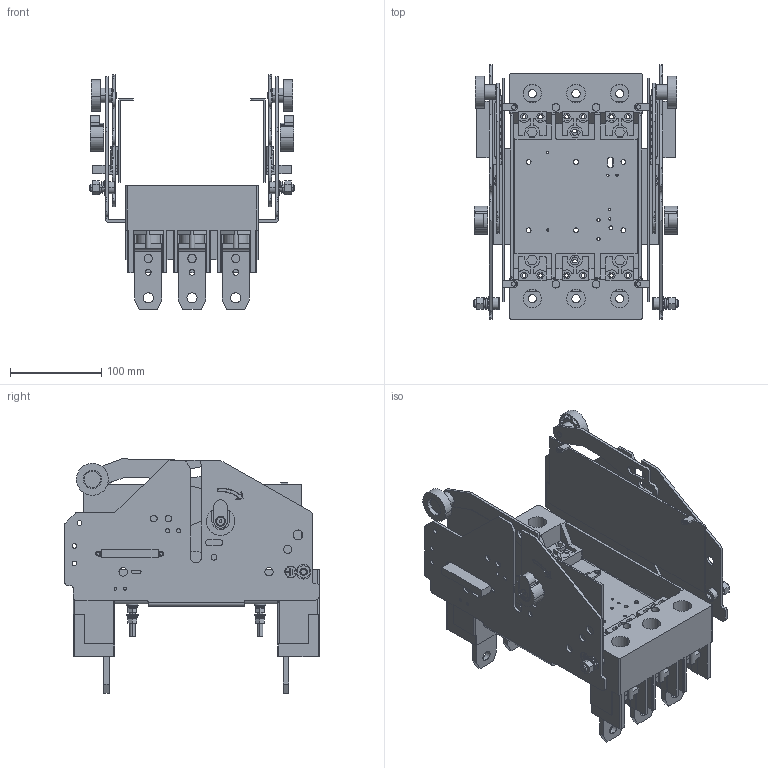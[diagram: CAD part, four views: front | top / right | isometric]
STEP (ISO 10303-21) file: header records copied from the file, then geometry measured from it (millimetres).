
FILE_DESCRIPTION (( 'STEP AP214' ), '1' );
FILE_NAME ('Êîðçèíà âûêàòíàÿ TEM5E-400 3P.STEP', '2026-07-06T07:32:41', ( '' ), ( '' ), 'SwSTEP 2.0', 'SolidWorks 2024', '' );
FILE_SCHEMA (( 'AUTOMOTIVE_DESIGN' ));
Length unit declared in the file: millimetre
Products named in the file (7): Корзина выкатная TEM5E-400 3P; крепления — копия.STEP; Корзина выкатная TEM5E-400 3P.STEP; 400.STEP; крепления — копия (3).STEP; крепления_1.STEP; крепления — копия (2).STEP
Assembly tree (6 placements, depth 3):
  Корзина выкатная TEM5E-400 3P
    Корзина выкатная TEM5E-400 3P.STEP
      400.STEP
      крепления_1.STEP
      крепления — копия.STEP
      крепления — копия (2).STEP
      крепления — копия (3).STEP
Bounding box: 224 x 279.1 x 257.08 mm (x, y, z)
Volume: 1501502.2 mm3; surface area: 660253.4 mm2
Topology: 63 solids, 81 shells, 2752 faces, 7253 edges, 4784 vertices
Faces by surface type: plane 1452, cylinder 1018, bspline 134, torus 80, cone 48, sphere 20
Entity records: 92620 total; most frequent: CARTESIAN_POINT 21887, DIRECTION 14579, ORIENTED_EDGE 14446, EDGE_CURVE 7223, AXIS2_PLACEMENT_3D 5044, VERTEX_POINT 4774, VECTOR 4491, LINE 4491
